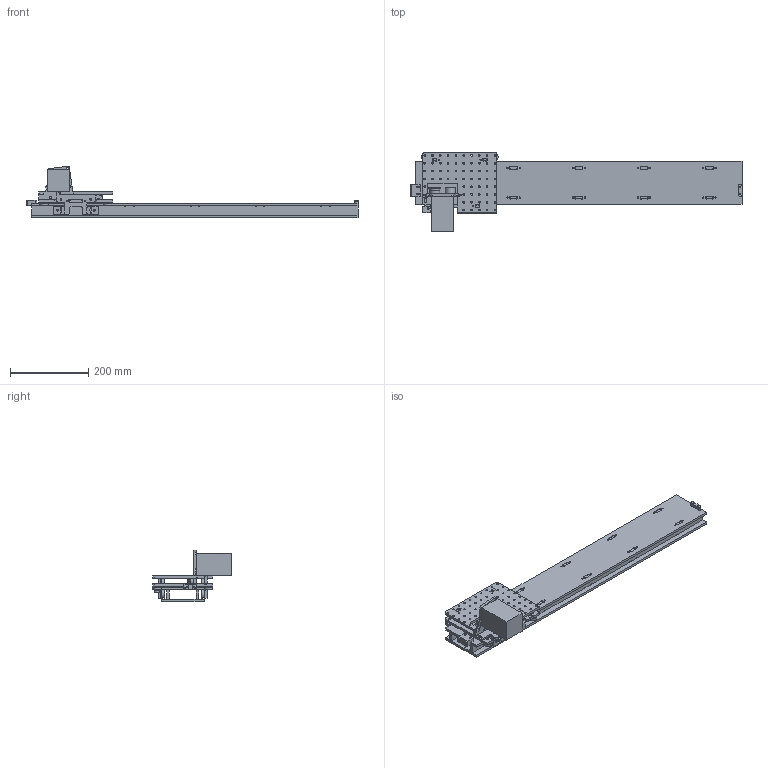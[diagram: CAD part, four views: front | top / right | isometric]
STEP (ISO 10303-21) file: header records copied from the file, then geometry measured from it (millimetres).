
FILE_DESCRIPTION(/* description */ (''),/* implementation_level */ '2;1');
FILE_NAME(/* name */ 'D:/Dropbox (Personal)/CBA/projects/machines/rctgantries/cad/RCTN23-025ALU-100-610.step',/* time_stamp */ '2018-10-22T11:13:50-04:00',/* author */ ('jakerobertread@gmail.com'),/* organization */ (''),/* preprocessor_version */ 'ST-DEVELOPER v17.2',/* originating_system */ 'Autodesk Translation Framework v7.6.0.251',/* authorisation */ '');
FILE_SCHEMA (('AUTOMOTIVE_DESIGN { 1 0 10303 214 3 1 1 }'));
Length unit declared in the file: millimetre
Products named in the file (1): RCTN23-025ALU
Bounding box: 850.7 x 202.4 x 131.95 mm (x, y, z)
Volume: 2109453.6 mm3; surface area: 705161.4 mm2
Topology: 30 solids, 30 shells, 1287 faces, 3670 edges, 2446 vertices
Faces by surface type: cylinder 827, plane 456, cone 3, torus 1
Full cylindrical faces by diameter (mm): 2.5 x14, 2.94 x4, 3.25 x53, 4 x4, 4.2 x62, 5 x28, 13 x1, 18 x1, 22 x13, 25.4 x3, 29.4 x1
Entity records: 43493 total; most frequent: DIRECTION 7907, CARTESIAN_POINT 7404, ORIENTED_EDGE 7340, EDGE_CURVE 3670, AXIS2_PLACEMENT_3D 2949, VERTEX_POINT 2446, LINE 2009, VECTOR 2009
